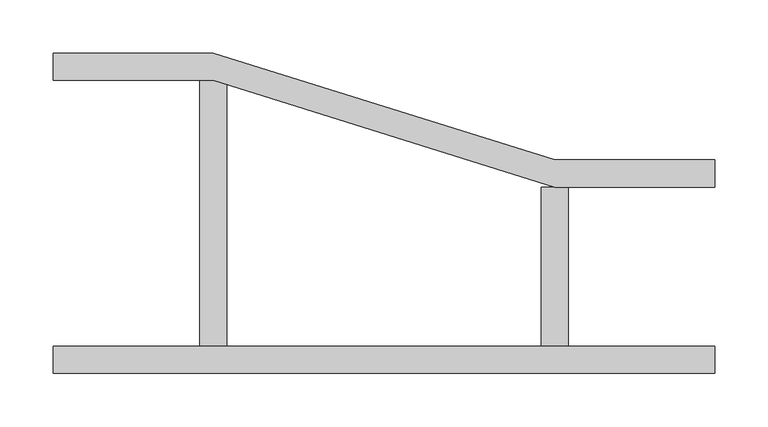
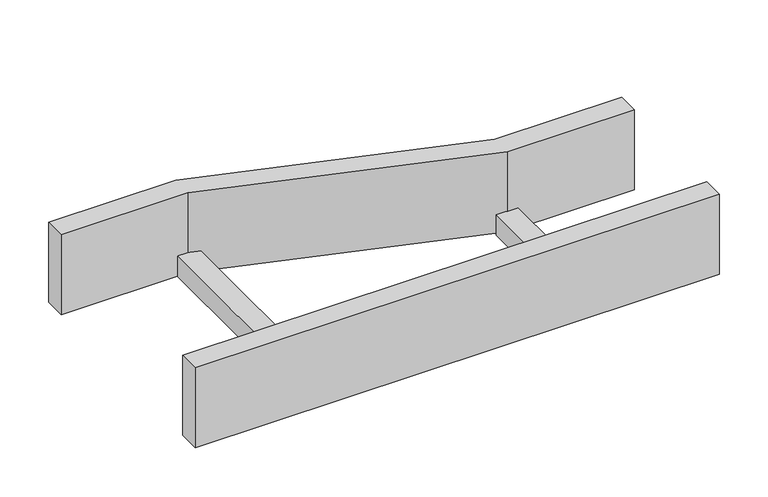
"""IFC4 building model written with IfcOpenShell, lengths in millimetres: cable carrier fitting geometry, BAKS_LDLS_RED_Straight reducer_RDS : R(S/L/P)DSC_H100."""

from ifc_helpers import new_model, si_unit, frame, origin, place, context, project, spatial, polyline, outline, extrude, source, transform, mapped, element, save


def cable_carrier_fitting_4b9ec148(model_context):
    return source(origin(), model_context, "Body", "SweptSolid", [
        extrude(outline(polyline([(0.0, -150.0), (0.0, -124.6), (620.0, -124.6), (620.0, -150.0), (0.0, -150.0)])), frame((0.0, 0.0, -50.0), z_axis=(0.0, 0.0, 1.0), x_axis=(1.0, 0.0, 0.0)), (0.0, 0.0, 1.0), 100.0),
        extrude(outline(polyline([(0.0, 124.6), (0.0, 150.0), (150.0, 150.0), (470.0, 50.0), (620.0, 50.0), (620.0, 24.6), (470.0, 24.6), (150.0, 124.6), (0.0, 124.6)])), frame((0.0, 0.0, -50.0), z_axis=(0.0, 0.0, 1.0), x_axis=(1.0, 0.0, 0.0)), (0.0, 0.0, 1.0), 100.0),
        extrude(outline(polyline([(457.3, 24.6), (482.7, 24.6), (482.7, -124.6), (457.3, -124.6), (457.3, 24.6)])), frame((0.0, 0.0, -50.0), z_axis=(0.0, 0.0, 1.0), x_axis=(1.0, 0.0, 0.0)), (0.0, 0.0, 1.0), 25.4),
        extrude(outline(polyline([(137.3, 124.6), (162.7, 124.6), (162.7, -124.6), (137.3, -124.6), (137.3, 124.6)])), frame((0.0, 0.0, -50.0), z_axis=(0.0, 0.0, 1.0), x_axis=(1.0, 0.0, 0.0)), (0.0, 0.0, 1.0), 25.4),
    ])


if __name__ == "__main__":
    model = new_model("IFC4")
    model_context = context("Model", 3, world=origin())
    ifc_project = project(units=[si_unit("LENGTHUNIT", "METRE", prefix="MILLI")], contexts=[model_context])
    site = spatial("IfcSite", under=ifc_project)
    building = spatial("IfcBuilding", under=site)
    placement = place(None, origin())
    cable_carrier_fitting_shape = cable_carrier_fitting_4b9ec148(model_context)
    element("IfcCableCarrierFitting", 1, ObjectType="BAKS_LDLS_RED_Straight reducer_RDS : R(S/L/P)DSC_H100", at=placement, inside=building, context=model_context, shape_type="MappedRepresentation", body=[
        mapped(cable_carrier_fitting_shape, transform((0.0, 0.0, 0.0), x_axis=(1.0, 0.0, 0.0), y_axis=(0.0, 1.0, 0.0), z_axis=(0.0, 0.0, 1.0))),
    ])
    save(model, "model.ifc")
